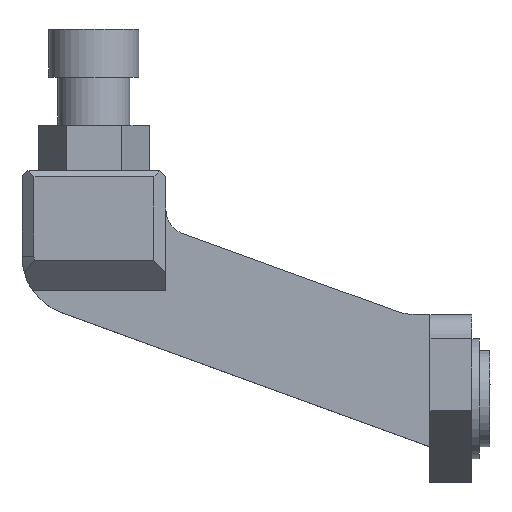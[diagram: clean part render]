
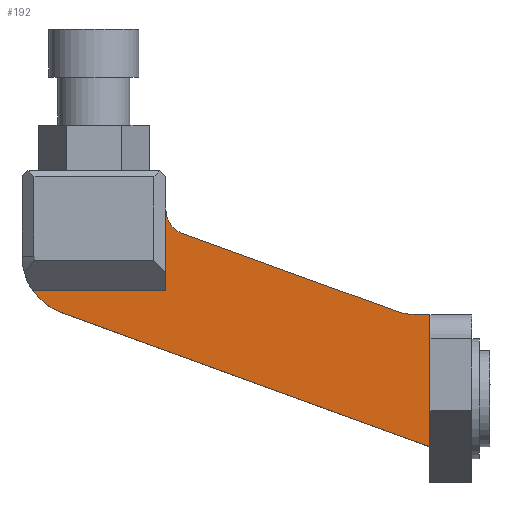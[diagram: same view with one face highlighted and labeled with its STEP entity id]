
A CAD part, top view. The second image highlights one B-rep face of the part: STEP entity #192.
In plain terms, the highlighted planar face has unit normal (0, 0, 1).
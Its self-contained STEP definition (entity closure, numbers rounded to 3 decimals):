
#6 = DIRECTION ( 'NONE',  ( 0., 0., 1. ) ) ;
#14 = EDGE_CURVE ( 'NONE', #988, #1503, #826, .T. ) ;
#36 = DIRECTION ( 'NONE',  ( 0., 0., -1. ) ) ;
#40 = VECTOR ( 'NONE', #680, 1000. ) ;
#71 = AXIS2_PLACEMENT_3D ( 'NONE', #1334, #1953, #729 ) ;
#76 = LINE ( 'NONE', #252, #40 ) ;
#80 = VECTOR ( 'NONE', #1855, 1000. ) ;
#91 = EDGE_CURVE ( 'NONE', #1106, #1503, #76, .T. ) ;
#111 = ORIENTED_EDGE ( 'NONE', *, *, #14, .F. ) ;
#114 = VECTOR ( 'NONE', #1337, 1000. ) ;
#119 = ORIENTED_EDGE ( 'NONE', *, *, #595, .T. ) ;
#132 = PLANE ( 'NONE',  #1781 ) ;
#174 = EDGE_CURVE ( 'NONE', #1566, #1913, #421, .T. ) ;
#181 = AXIS2_PLACEMENT_3D ( 'NONE', #554, #1142, #1744 ) ;
#183 = ORIENTED_EDGE ( 'NONE', *, *, #353, .T. ) ;
#192 = ADVANCED_FACE ( 'NONE', ( #1364 ), #132, .T. ) ;
#232 = CARTESIAN_POINT ( 'NONE',  ( -29., 11.876, 2.5 ) ) ;
#252 = CARTESIAN_POINT ( 'NONE',  ( 0., -4., 2.5 ) ) ;
#308 = CARTESIAN_POINT ( 'NONE',  ( -22., 15.68, 2.5 ) ) ;
#353 = EDGE_CURVE ( 'NONE', #811, #1225, #1895, .T. ) ;
#417 = CARTESIAN_POINT ( 'NONE',  ( -22., 9., 2.5 ) ) ;
#418 = EDGE_LOOP ( 'NONE', ( #111, #458, #183, #119, #1861, #1850, #958, #1603, #955 ) ) ;
#421 = CIRCLE ( 'NONE', #71, 2. ) ;
#438 = DIRECTION ( 'NONE',  ( 0., 1., 0. ) ) ;
#458 = ORIENTED_EDGE ( 'NONE', *, *, #1937, .T. ) ;
#484 = LINE ( 'NONE', #611, #1261 ) ;
#554 = CARTESIAN_POINT ( 'NONE',  ( -1.118, 12., 2.5 ) ) ;
#582 = CARTESIAN_POINT ( 'NONE',  ( 0., 9., 2.5 ) ) ;
#595 = EDGE_CURVE ( 'NONE', #1225, #1566, #1679, .T. ) ;
#610 = DIRECTION ( 'NONE',  ( 1., 0., 0. ) ) ;
#611 = CARTESIAN_POINT ( 'NONE',  ( 0., 7., 2.5 ) ) ;
#618 = CARTESIAN_POINT ( 'NONE',  ( 0., 7., 2.5 ) ) ;
#621 = VECTOR ( 'NONE', #438, 1000. ) ;
#680 = DIRECTION ( 'NONE',  ( 0.94, -0.342, 0. ) ) ;
#686 = CARTESIAN_POINT ( 'NONE',  ( -30.71, 7.178, 2.5 ) ) ;
#729 = DIRECTION ( 'NONE',  ( -1., 0., 0. ) ) ;
#733 = LINE ( 'NONE', #582, #114 ) ;
#749 = CARTESIAN_POINT ( 'NONE',  ( -22., 9., 2.5 ) ) ;
#752 = CARTESIAN_POINT ( 'NONE',  ( 0., 0., 2.5 ) ) ;
#795 = CARTESIAN_POINT ( 'NONE',  ( -22., 14.279, 2.5 ) ) ;
#811 = VERTEX_POINT ( 'NONE', #1007 ) ;
#822 = VERTEX_POINT ( 'NONE', #749 ) ;
#826 = LINE ( 'NONE', #1430, #1469 ) ;
#901 = CARTESIAN_POINT ( 'NONE',  ( 0., -4., 2.5 ) ) ;
#955 = ORIENTED_EDGE ( 'NONE', *, *, #91, .T. ) ;
#958 = ORIENTED_EDGE ( 'NONE', *, *, #1304, .T. ) ;
#988 = VERTEX_POINT ( 'NONE', #618 ) ;
#1007 = CARTESIAN_POINT ( 'NONE',  ( -1.118, 7., 2.5 ) ) ;
#1013 = LINE ( 'NONE', #417, #621 ) ;
#1087 = DIRECTION ( 'NONE',  ( -1., 0., 0. ) ) ;
#1106 = VERTEX_POINT ( 'NONE', #686 ) ;
#1142 = DIRECTION ( 'NONE',  ( 0., 0., -1. ) ) ;
#1170 = CARTESIAN_POINT ( 'NONE',  ( -2.828, 7.302, 2.5 ) ) ;
#1225 = VERTEX_POINT ( 'NONE', #1170 ) ;
#1240 = EDGE_CURVE ( 'NONE', #822, #1913, #1013, .T. ) ;
#1261 = VECTOR ( 'NONE', #1087, 1000. ) ;
#1301 = CARTESIAN_POINT ( 'NONE',  ( -33.09, 9., 2.5 ) ) ;
#1304 = EDGE_CURVE ( 'NONE', #822, #1803, #733, .T. ) ;
#1334 = CARTESIAN_POINT ( 'NONE',  ( -20., 15.68, 2.5 ) ) ;
#1337 = DIRECTION ( 'NONE',  ( -1., 0., 0. ) ) ;
#1364 = FACE_OUTER_BOUND ( 'NONE', #418, .T. ) ;
#1396 = DIRECTION ( 'NONE',  ( 0., -1., 0. ) ) ;
#1430 = CARTESIAN_POINT ( 'NONE',  ( 0., 0., 2.5 ) ) ;
#1469 = VECTOR ( 'NONE', #1396, 1000. ) ;
#1503 = VERTEX_POINT ( 'NONE', #901 ) ;
#1562 = DIRECTION ( 'NONE',  ( -1., 0., 0. ) ) ;
#1566 = VERTEX_POINT ( 'NONE', #1736 ) ;
#1603 = ORIENTED_EDGE ( 'NONE', *, *, #1614, .F. ) ;
#1614 = EDGE_CURVE ( 'NONE', #1106, #1803, #1664, .T. ) ;
#1664 = CIRCLE ( 'NONE', #1926, 5. ) ;
#1679 = LINE ( 'NONE', #795, #80 ) ;
#1736 = CARTESIAN_POINT ( 'NONE',  ( -20.684, 13.8, 2.5 ) ) ;
#1744 = DIRECTION ( 'NONE',  ( 1., 0., 0. ) ) ;
#1781 = AXIS2_PLACEMENT_3D ( 'NONE', #752, #6, #610 ) ;
#1803 = VERTEX_POINT ( 'NONE', #1301 ) ;
#1850 = ORIENTED_EDGE ( 'NONE', *, *, #1240, .F. ) ;
#1855 = DIRECTION ( 'NONE',  ( -0.94, 0.342, 0. ) ) ;
#1861 = ORIENTED_EDGE ( 'NONE', *, *, #174, .T. ) ;
#1895 = CIRCLE ( 'NONE', #181, 5. ) ;
#1913 = VERTEX_POINT ( 'NONE', #308 ) ;
#1926 = AXIS2_PLACEMENT_3D ( 'NONE', #232, #36, #1562 ) ;
#1937 = EDGE_CURVE ( 'NONE', #988, #811, #484, .T. ) ;
#1953 = DIRECTION ( 'NONE',  ( 0., 0., -1. ) ) ;
